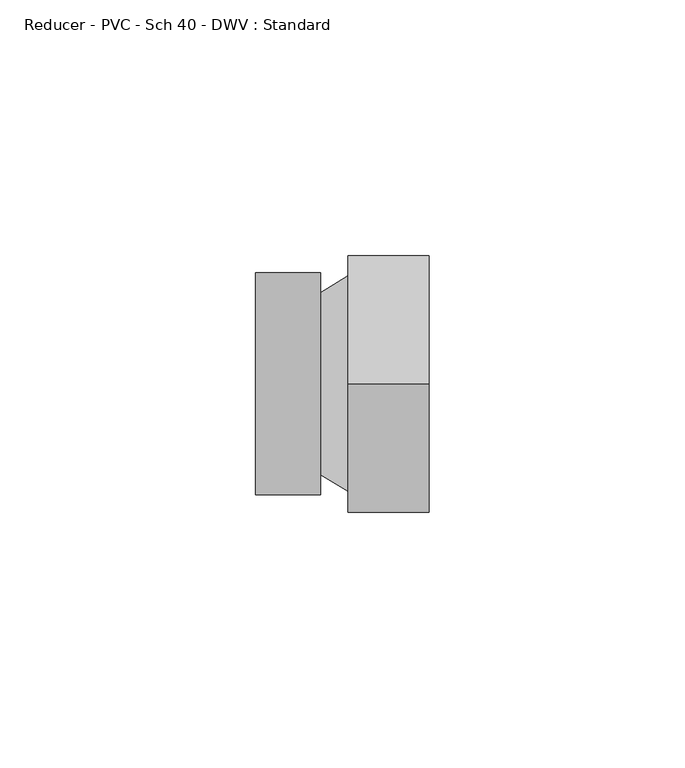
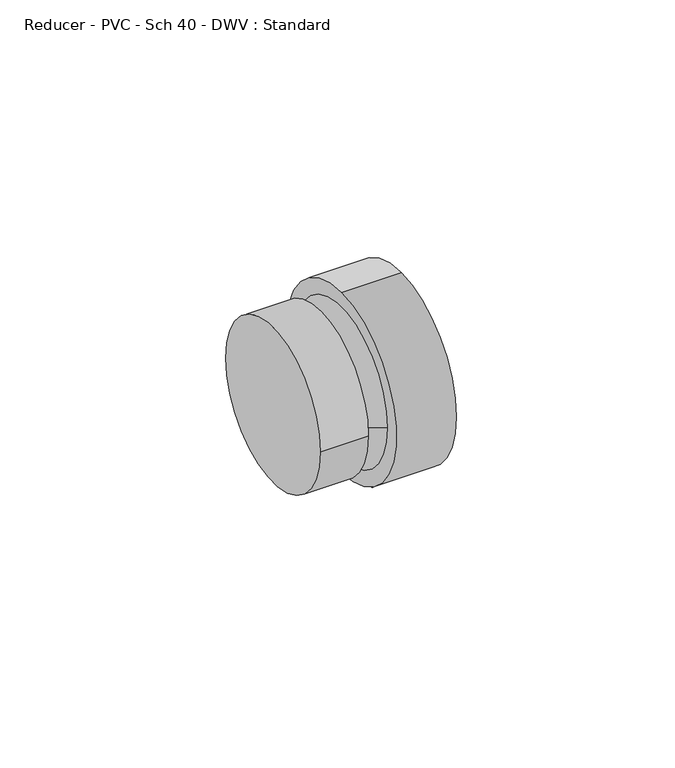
"""IFC4 building model written with IfcOpenShell, lengths in millimetres: pipe fitting geometry, Reducer - PVC - Sch 40 - DWV : Standard."""

import ifcopenshell
import ifcopenshell.guid

model = None  # the IFC model being written
_history = None  # IfcOwnerHistory: only IFC2X3 demands one
_inside = {}  # id of a spatial element -> (the spatial element, [elements in it])
_under = {}  # id of a project, library or spatial element -> (it, [spatial elements below it])
_declared = {}  # id of a project -> (the project, [libraries it declares])
_typed = {}  # id of a type object -> (the type object, [elements of that type])
_made_of = {}  # id of a material, layer set ... -> (it, [elements and type objects made of it])


def new_model(schema):
    """Start an empty IFC model of exactly this schema.

    Asked for "IFC4X3", IfcOpenShell would pick the latest addendum, in which some entities
    have other attributes; the version numbers below select the first issue.
    IFC2X3 requires an IfcOwnerHistory on every rooted entity: one is made here for all.
    """
    global model, _history
    if schema == "IFC4X3":
        model = ifcopenshell.file(schema_version=(4, 3, 0, 0))
    else:
        model = ifcopenshell.file(schema=schema)
    _inside.clear()
    _under.clear()
    _declared.clear()
    _typed.clear()
    _made_of.clear()
    _history = None
    if model.schema == "IFC2X3":
        org = make("IfcOrganization", Name="unknown")
        user = make(
            "IfcPersonAndOrganization",
            ThePerson=make("IfcPerson", FamilyName="unknown"),
            TheOrganization=org,
        )
        app = make(
            "IfcApplication",
            ApplicationDeveloper=org,
            Version="unknown",
            ApplicationFullName="unknown",
            ApplicationIdentifier="unknown",
        )
        _history = make(
            "IfcOwnerHistory",
            OwningUser=user,
            OwningApplication=app,
            ChangeAction="ADDED",
            CreationDate=0,
        )
    return model


def make(cls, **values):
    """One entity of the class cls with the attributes given. An attribute that is None is left unset."""
    return model.create_entity(
        cls, **{name: value for name, value in values.items() if value is not None}
    )


def rooted(cls, **values):
    """An entity with a GlobalId (a new one), such as an element, a storey or a relation."""
    return make(cls, GlobalId=ifcopenshell.guid.new(), OwnerHistory=_history, **values)


def si_unit(unit_type, name, prefix=None):
    """IfcSIUnit, for example si_unit("LENGTHUNIT", "METRE", prefix="MILLI")."""
    return make("IfcSIUnit", UnitType=unit_type, Prefix=prefix, Name=name)


def assignment(units):
    """IfcUnitAssignment: the units of a project."""
    return None if units is None else make("IfcUnitAssignment", Units=units)


def point(xyz):
    """IfcCartesianPoint."""
    return None if xyz is None else make("IfcCartesianPoint", Coordinates=xyz)


def direction(xyz):
    """IfcDirection."""
    return None if xyz is None else make("IfcDirection", DirectionRatios=xyz)


def frame(location, z_axis=None, x_axis=None):
    """IfcAxis2Placement3D, a coordinate frame: its origin and axes. An axis left out is left unset."""
    return make(
        "IfcAxis2Placement3D",
        Location=point(location),
        Axis=direction(z_axis),
        RefDirection=direction(x_axis),
    )


def origin():
    """The frame at (0, 0, 0) with its axes left unset."""
    return frame((0.0, 0.0, 0.0))


def place(relative_to, where):
    """IfcLocalPlacement: puts the frame where relative to a parent placement (None: the world)."""
    return make(
        "IfcLocalPlacement", PlacementRelTo=relative_to, RelativePlacement=where
    )


def context(
    kind, dimensions, precision=None, world=None, true_north=None, identifier=None
):
    """IfcGeometricRepresentationContext, for example the 3D "Model" context."""
    return make(
        "IfcGeometricRepresentationContext",
        ContextIdentifier=identifier,
        ContextType=kind,
        CoordinateSpaceDimension=dimensions,
        Precision=precision,
        WorldCoordinateSystem=world,
        TrueNorth=true_north,
    )


def project(units=None, contexts=None):
    """IfcProject with its units and contexts."""
    return rooted(
        "IfcProject",
        Name="project",
        RepresentationContexts=contexts,
        UnitsInContext=assignment(units),
    )


def spatial(cls, under=None, at=None, **own):
    """A site, building, storey or space (cls), placed at a placement, below another one or the project."""
    s = rooted(cls, ObjectPlacement=at, **own)
    if under is not None:
        _under.setdefault(under.id(), (under, []))[1].append(s)
    return s


def polyline(points):
    """IfcPolyline through the points."""
    return make("IfcPolyline", Points=[point(p) for p in points])


def circle_curve(where, radius):
    """IfcCircle in the frame where."""
    return make("IfcCircle", Position=where, Radius=radius)


def shape(context_of_items, identifier, shape_type, items):
    """IfcShapeRepresentation: the items that make up one representation, for example the "Body"."""
    return make(
        "IfcShapeRepresentation",
        ContextOfItems=context_of_items,
        RepresentationIdentifier=identifier,
        RepresentationType=shape_type,
        Items=items,
    )


def source(mapping_origin, context_of_items, identifier, shape_type, items):
    """IfcRepresentationMap: a shape defined once, which mapped items show again and again."""
    return make(
        "IfcRepresentationMap",
        MappingOrigin=mapping_origin,
        MappedRepresentation=shape(context_of_items, identifier, shape_type, items),
    )


def transform(
    local_origin,
    x_axis=None,
    y_axis=None,
    z_axis=None,
    scale=None,
    scale2=None,
    scale3=None,
    uniform=True,
):
    """IfcCartesianTransformationOperator3D, or its non-uniform kind. x_axis, y_axis, z_axis: its Axis1, 2, 3."""
    if uniform:
        return make(
            "IfcCartesianTransformationOperator3D",
            Axis1=direction(x_axis),
            Axis2=direction(y_axis),
            LocalOrigin=point(local_origin),
            Scale=scale,
            Axis3=direction(z_axis),
        )
    return make(
        "IfcCartesianTransformationOperator3DnonUniform",
        Axis1=direction(x_axis),
        Axis2=direction(y_axis),
        LocalOrigin=point(local_origin),
        Scale=scale,
        Axis3=direction(z_axis),
        Scale2=scale2,
        Scale3=scale3,
    )


def mapped(mapping_source, mapping_target):
    """IfcMappedItem: shows the shape of a source again, moved by a transform."""
    return make(
        "IfcMappedItem", MappingSource=mapping_source, MappingTarget=mapping_target
    )


def made_of(thing, what):
    """Note that an element or type object is made of a material, layer set ...; save() writes the relation."""
    if what is not None:
        _made_of.setdefault(what.id(), (what, []))[1].append(thing)
    return thing


def element(
    cls,
    number,
    at=None,
    inside=None,
    cuts=None,
    type_object=None,
    material=None,
    context=None,
    identifier="Body",
    shape_type=None,
    held_by="IfcProductDefinitionShape",
    body=None,
    shapes=None,
    **own,
):
    """One element of the class cls, such as IfcWall. Its Tag is "e" and its number.

    at: its placement. inside: the storey or other place that contains it. cuts: it is an
    opening in that element (IfcRelVoidsElement). A single representation is given by context,
    identifier, shape_type and body (its items); several are given by shapes. held_by: the class
    of the entity that holds the representations. save() writes the other relations.
    """
    e = rooted(cls, Tag="e%d" % number, ObjectPlacement=at, **own)
    if body is not None:
        shapes = [shape(context, identifier, shape_type, body)]
    if shapes is not None:
        e.Representation = make(held_by, Representations=shapes)
    if inside is not None:
        _inside.setdefault(inside.id(), (inside, []))[1].append(e)
    if cuts is not None:
        rooted(
            "IfcRelVoidsElement", RelatingBuildingElement=cuts, RelatedOpeningElement=e
        )
    if type_object is not None:
        _typed.setdefault(type_object.id(), (type_object, []))[1].append(e)
    return made_of(e, material)


def aggregate(whole, parts):
    """IfcRelAggregates: a whole, such as a stair, and the parts it consists of."""
    return rooted("IfcRelAggregates", RelatingObject=whole, RelatedObjects=parts)


def save(model, path):
    """Write the relations noted so far, then the file.

    IfcRelAggregates (storeys below a building ...), IfcRelContainedInSpatialStructure (elements
    in a storey), IfcRelDefinesByType, IfcRelAssociatesMaterial and IfcRelDeclares: one each for
    every whole, place, type object, material and project.
    """
    for whole, parts in _under.values():
        aggregate(whole, parts)
    for where, things in _inside.values():
        rooted(
            "IfcRelContainedInSpatialStructure",
            RelatedElements=things,
            RelatingStructure=where,
        )
    for kind, things in _typed.values():
        rooted("IfcRelDefinesByType", RelatedObjects=things, RelatingType=kind)
    for what, things in _made_of.values():
        rooted("IfcRelAssociatesMaterial", RelatedObjects=things, RelatingMaterial=what)
    for by, libraries in _declared.values():
        rooted("IfcRelDeclares", RelatingContext=by, RelatedDefinitions=libraries)
    model.write(path)


def plane_surface(at):
    """IfcPlane: the flat surface through the origin of the frame at, square to its z axis."""
    return make("IfcPlane", Position=at)


def cylinder_surface(at, radius):
    """IfcCylindricalSurface: all points at the distance radius from the z axis of the frame at."""
    return make("IfcCylindricalSurface", Position=at, Radius=radius)


def revolved_surface(curve, axis_point, axis_direction):
    """IfcSurfaceOfRevolution: the curve turned about the line through axis_point along axis_direction."""
    return make(
        "IfcSurfaceOfRevolution",
        SweptCurve=make("IfcArbitraryOpenProfileDef", ProfileType="CURVE", Curve=curve),
        AxisPosition=make("IfcAxis1Placement", Location=point(axis_point), Axis=direction(axis_direction)),
    )


def advanced_brep(points, edges, surfaces, faces):
    """IfcAdvancedBrep: a solid bounded by faces that lie on surfaces and meet in shared edges.

    An edge is (start, end): straight between two places in points (the first is 0);
    or (start, end, curve); or (start, end, curve, False) where it runs against its curve.
    A face is (place in surfaces, loops), or (place, loops, False) where it looks against
    its surface's normal. A loop lists edges by number (the first is 1), with a minus sign
    where the edge is run from its end to its start. The first loop is the outer one.
    """
    corners = [point(p) for p in points]
    vertices = [make("IfcVertexPoint", VertexGeometry=c) for c in corners]
    made = []
    for start, end, *more in edges:
        made.append(
            make(
                "IfcEdgeCurve",
                EdgeStart=vertices[start],
                EdgeEnd=vertices[end],
                EdgeGeometry=more[0] if more else make("IfcPolyline", Points=[corners[start], corners[end]]),
                SameSense=more[1] if len(more) > 1 else True,
            )
        )
    hull = []
    for where, loops, *sense in faces:
        bounds = []
        for j, loop in enumerate(loops):
            ring = [make("IfcOrientedEdge", EdgeElement=made[abs(k) - 1], Orientation=k > 0) for k in loop]
            bounds.append(
                make(
                    "IfcFaceOuterBound" if j == 0 else "IfcFaceBound",
                    Bound=make("IfcEdgeLoop", EdgeList=ring),
                    Orientation=True,
                )
            )
        hull.append(make("IfcAdvancedFace", Bounds=bounds, FaceSurface=surfaces[where], SameSense=sense[0] if sense else True))
    return make("IfcAdvancedBrep", Outer=make("IfcClosedShell", CfsFaces=hull))


def reducer_pvc_sch_40_dwv_standard_96cb7396(model_context):
    return source(origin(), model_context, "Body", "AdvancedBrep", [
        advanced_brep(
        [(0.0, -21.7031094, 0.0), (0.0, 21.7031094, 0.0), (12.7, -21.7031094, 0.0), (12.7, 21.7031094, 0.0), (12.7, 17.7720625, 0.0), (12.7, -17.7720625, 0.0), (18.0855938, 21.0740625, 0.0), (18.0855937, -21.0740625, 0.0), (18.0855938, 0.0, 25.1321094), (18.0855938, 0.0, -25.1321094), (33.9605938, 0.0, 25.1321094), (33.9605938, 0.0, -25.1321094)],
        [
            (0, 1, circle_curve(frame((0.0, 0.0, 0.0), z_axis=(-1.0, 0.0, 0.0), x_axis=(0.0, 1.0, 0.0)), 21.7031094)),
            (1, 0, circle_curve(frame((0.0, 0.0, 0.0), z_axis=(-1.0, 0.0, 0.0), x_axis=(0.0, 1.0, 0.0)), 21.7031094)),
            (2, 3, circle_curve(frame((12.7, 0.0, 0.0), z_axis=(1.0, 0.0, 0.0), x_axis=(0.0, 1.0, 0.0)), 21.7031094)),
            (3, 2, circle_curve(frame((12.7, 0.0, 0.0), z_axis=(1.0, 0.0, 0.0), x_axis=(0.0, 1.0, 0.0)), 21.7031094)),
            (4, 5, circle_curve(frame((12.7, 0.0, 0.0), z_axis=(-1.0, 1.0933037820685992e-12, 0.0), x_axis=(-1.0932421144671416e-12, -1.0, 0.0)), 17.7720625)),
            (5, 4, circle_curve(frame((12.7, 0.0, 0.0), z_axis=(-1.0, 1.0933037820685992e-12, 0.0), x_axis=(1.0932421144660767e-12, 1.0, 0.0)), 17.7720625)),
            (0, 2),
            (3, 1),
            (4, 6),
            (6, 7, circle_curve(frame((18.0855938, 0.0, 0.0), z_axis=(-1.0, 1.0933037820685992e-12, 0.0), x_axis=(-1.0932421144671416e-12, -1.0, 0.0)), 21.0740625)),
            (7, 5),
            (7, 6, circle_curve(frame((18.0855938, 0.0, 0.0), z_axis=(-1.0, 1.0933037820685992e-12, 0.0), x_axis=(1.0932421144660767e-12, 1.0, 0.0)), 21.0740625)),
            (8, 9, circle_curve(frame((18.0855938, 0.0, 0.0), z_axis=(-1.0, 0.0, 0.0), x_axis=(0.0, 0.0, -1.0)), 25.1321094)),
            (9, 8, circle_curve(frame((18.0855938, 0.0, 0.0), z_axis=(-1.0, 0.0, 0.0), x_axis=(0.0, 0.0, -1.0)), 25.1321094)),
            (10, 11, circle_curve(frame((33.9605938, 0.0, 0.0), z_axis=(1.0, 0.0, 0.0), x_axis=(0.0, 0.0, -1.0)), 25.1321094)),
            (11, 10, circle_curve(frame((33.9605938, 0.0, 0.0), z_axis=(1.0, 0.0, 0.0), x_axis=(0.0, 0.0, -1.0)), 25.1321094)),
            (8, 10),
            (11, 9),
        ],
        [
            plane_surface(frame((0.0, 0.0, 0.0), z_axis=(-1.0, 0.0, 0.0), x_axis=(0.0, 0.0, 1.0))),
            plane_surface(frame((12.7, 0.0, 0.0), z_axis=(1.0, 0.0, 0.0), x_axis=(0.0, 0.0, 1.0))),
            cylinder_surface(frame((0.0, 0.0, 0.0), z_axis=(-1.0, 0.0, 0.0), x_axis=(0.0, 1.0, 0.0)), 21.7031094),
            revolved_surface(polyline([(12.700000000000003, 17.77206247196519, 0.0), (18.08559380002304, 21.074062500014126, 0.0)]), (-16.2864048, 0.0, 0.0), (1.0, -1.0933037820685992e-12, 0.0)),
            plane_surface(frame((18.0855938, 0.0, 0.0), z_axis=(-1.0, 0.0, 0.0), x_axis=(0.0, 1.0, 0.0))),
            plane_surface(frame((33.9605938, 0.0, 0.0), z_axis=(1.0, 0.0, 0.0), x_axis=(0.0, 1.0, 0.0))),
            cylinder_surface(frame((18.0855938, 0.0, 0.0), z_axis=(-1.0, 0.0, 0.0), x_axis=(0.0, 0.0, -1.0)), 25.1321094),
        ],
        [
            (0, [[1, 2]]),
            (1, [[3, 4], [5, 6]]),
            (2, [[-1, 7, -4, 8]]),
            (2, [[-2, -8, -3, -7]]),
            (3, [[9, 10, 11, -5]]),
            (3, [[-9, -6, -11, 12]]),
            (4, [[13, 14], [-10, -12]]),
            (5, [[15, 16]]),
            (6, [[-13, 17, -16, 18]]),
            (6, [[-14, -18, -15, -17]]),
        ],
    ),
    ])


if __name__ == "__main__":
    model = new_model("IFC4")
    model_context = context("Model", 3, world=origin())
    ifc_project = project(units=[si_unit("LENGTHUNIT", "METRE", prefix="MILLI")], contexts=[model_context])
    site = spatial("IfcSite", under=ifc_project)
    building = spatial("IfcBuilding", under=site)
    placement = place(None, origin())
    reducer_pvc_sch_40_dwv_standard_shape = reducer_pvc_sch_40_dwv_standard_96cb7396(model_context)
    element("IfcPipeFitting", 1, ObjectType="Reducer - PVC - Sch 40 - DWV : Standard", at=placement, inside=building, context=model_context, shape_type="MappedRepresentation", body=[
        mapped(reducer_pvc_sch_40_dwv_standard_shape, transform((0.0, 0.0, 0.0), x_axis=(1.0, 0.0, 0.0), y_axis=(0.0, 1.0, 0.0), z_axis=(0.0, 0.0, 1.0))),
    ])
    save(model, "model.ifc")
